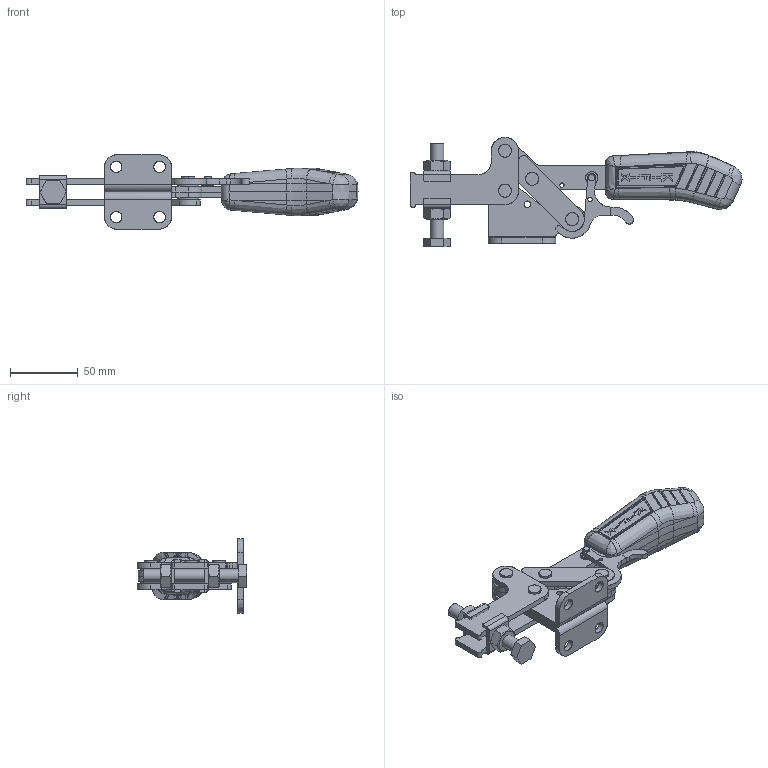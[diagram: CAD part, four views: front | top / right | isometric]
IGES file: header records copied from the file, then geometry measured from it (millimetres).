
Start section: SolidWorks IGES file using analytic representation for surfaces
Global section: file name: C:\Projetos\Grampos\KF-531\KF-531 D TR\KF-531 DTR.IGS; native system: SolidWorks 2013; preprocessor: SolidWorks 2013; author: Ricardo; date: 140818.111235; units: millimetre
Bounding box: 244.69 x 80.75 x 55 mm (x, y, z)
Surface area: 80369.5 mm2 (no closed solid volume)
Topology: 0 solids, 0 shells, 874 faces, 10696 edges, 10665 vertices
Faces by surface type: bspline 451, revolution 423
